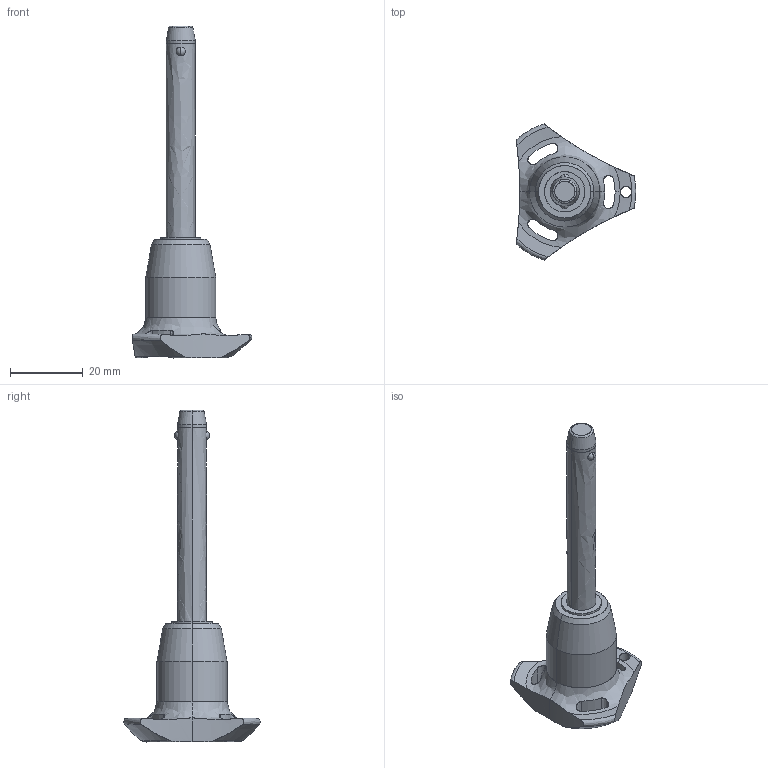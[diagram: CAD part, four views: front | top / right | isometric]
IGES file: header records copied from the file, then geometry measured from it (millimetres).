
Start section: SolidWorks IGES file using analytic representation for surfaces
Global section: file name: C:\Users\ianosborn\Desktop\QR1736_v2\QR1736_v2_20251115_IGES\QR1736.M08-050-T.igs; native system: SolidWorks 2019; preprocessor: SolidWorks 2019; author: IanOsborn; date: 251113.115547; units: millimetre
Bounding box: 33 x 37.51 x 91.5 mm (x, y, z)
Surface area: 5311.4 mm2 (no closed solid volume)
Topology: 0 solids, 0 shells, 68 faces, 1346 edges, 1342 vertices
Faces by surface type: revolution 52, bspline 16
